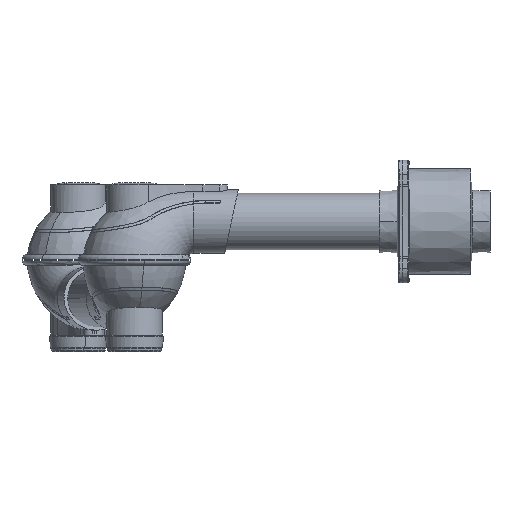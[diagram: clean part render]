
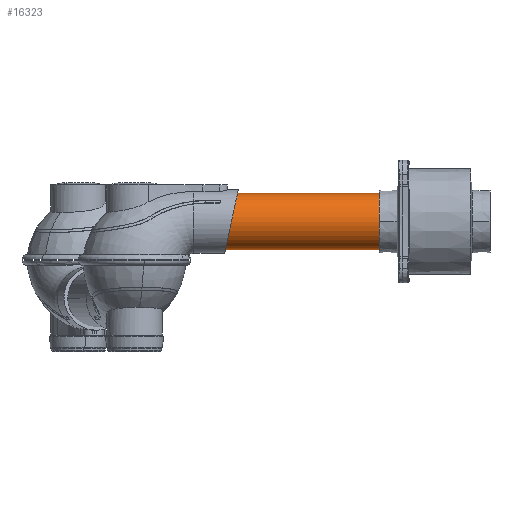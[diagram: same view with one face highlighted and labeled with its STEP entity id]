
A CAD part, left-side view. The second image highlights one B-rep face of the part: STEP entity #16323.
In plain terms, the highlighted cylindrical face has radius 26.3 mm (diameter 52.6 mm), a partial arc.
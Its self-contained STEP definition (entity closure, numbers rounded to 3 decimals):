
#16224=DIRECTION('',(-1.,0.,0.));
#16225=VECTOR('',#16224,275.);
#16226=CARTESIAN_POINT('',(0.,26.3,0.));
#16227=LINE('',#16226,#16225);
#16231=DIRECTION('',(-1.,0.,0.));
#16232=VECTOR('',#16231,275.);
#16233=CARTESIAN_POINT('',(0.,-26.3,0.));
#16234=LINE('',#16233,#16232);
#16238=CARTESIAN_POINT('',(0.,0.,0.));
#16239=DIRECTION('',(-1.,0.,0.));
#16240=DIRECTION('',(0.,1.,0.));
#16241=AXIS2_PLACEMENT_3D('',#16238,#16239,#16240);
#16246=CARTESIAN_POINT('',(-275.,0.,0.));
#16247=DIRECTION('',(-1.,0.,0.));
#16248=DIRECTION('',(0.,1.,0.));
#16249=AXIS2_PLACEMENT_3D('',#16246,#16247,#16248);
#16262=CARTESIAN_POINT('',(0.,26.3,0.));
#16263=CARTESIAN_POINT('',(-275.,26.3,0.));
#16264=VERTEX_POINT('',#16262);
#16265=VERTEX_POINT('',#16263);
#16266=CARTESIAN_POINT('',(0.,-26.3,0.));
#16267=CARTESIAN_POINT('',(-275.,-26.3,0.));
#16268=VERTEX_POINT('',#16266);
#16269=VERTEX_POINT('',#16267);
#16311=CARTESIAN_POINT('',(-288.75,0.,0.));
#16312=DIRECTION('',(1.,0.,0.));
#16313=DIRECTION('',(0.,-1.,0.));
#16314=AXIS2_PLACEMENT_3D('',#16311,#16312,#16313);
#16315=CYLINDRICAL_SURFACE('',#16314,26.3);
#16316=ORIENTED_EDGE('',*,*,#16294,.T.);
#16318=ORIENTED_EDGE('',*,*,#16317,.T.);
#16319=ORIENTED_EDGE('',*,*,#16297,.F.);
#16320=ORIENTED_EDGE('',*,*,#16277,.F.);
#16321=EDGE_LOOP('',(#16316,#16318,#16319,#16320));
#16322=FACE_OUTER_BOUND('',#16321,.F.);
#16242=CIRCLE('',#16241,26.3);
#16250=CIRCLE('',#16249,26.3);
#16277=EDGE_CURVE('',#16264,#16268,#16242,.T.);
#16294=EDGE_CURVE('',#16264,#16265,#16227,.T.);
#16297=EDGE_CURVE('',#16268,#16269,#16234,.T.);
#16317=EDGE_CURVE('',#16265,#16269,#16250,.T.);
#16323=ADVANCED_FACE('',(#16322),#16315,.T.);
